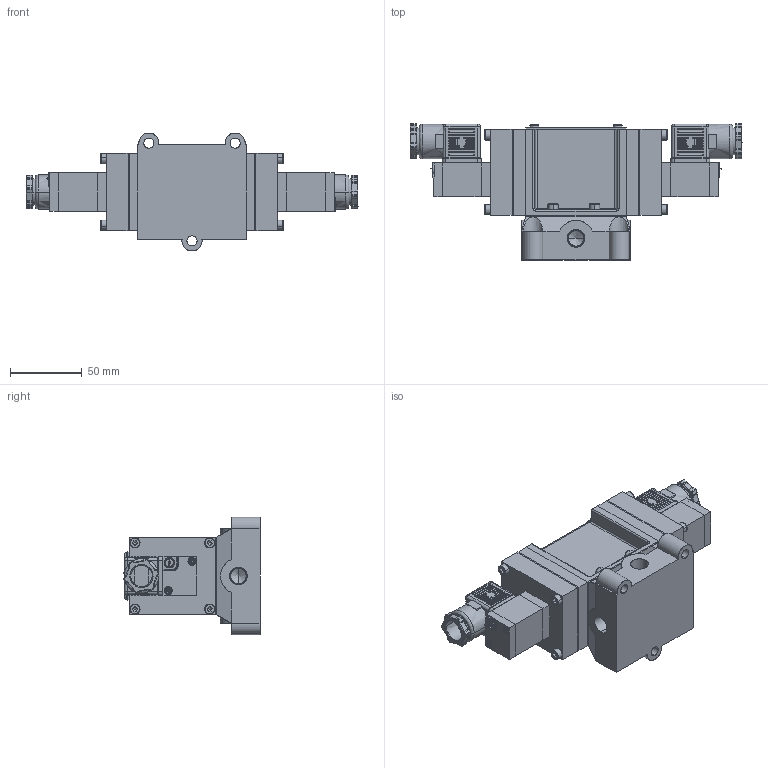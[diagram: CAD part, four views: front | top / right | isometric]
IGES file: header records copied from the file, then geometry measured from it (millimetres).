
Start section: SolidWorks IGES file using analytic representation for surfaces
Global section: file name: D:\Custom\3D繪製\PM\PM08\PMD3408#-02-#C#.IGS,1; native system: 5HSolidWorks 2014; preprocessor: SolidWorks 2014; author: Chieh_Lu; date: 150912.103728; units: millimetre
Bounding box: 231 x 94.64 x 82 mm (x, y, z)
Surface area: 147780.5 mm2 (no closed solid volume)
Topology: 0 solids, 0 shells, 1756 faces, 15715 edges, 15411 vertices
Faces by surface type: revolution 934, bspline 822
